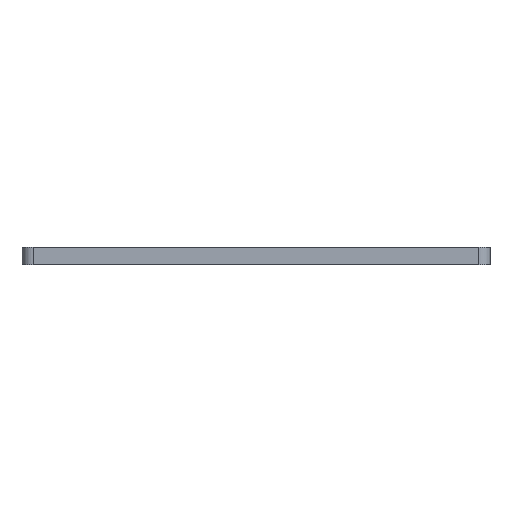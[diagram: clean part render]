
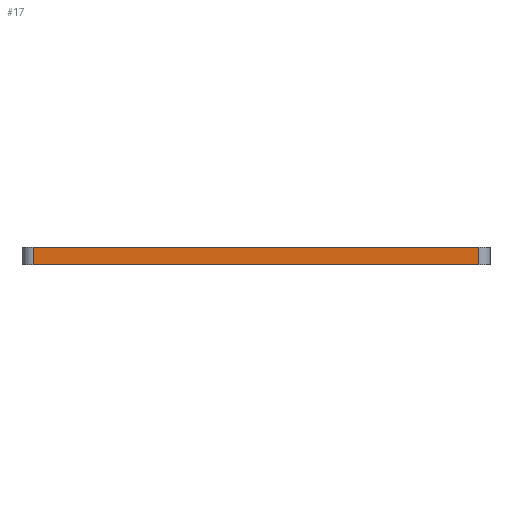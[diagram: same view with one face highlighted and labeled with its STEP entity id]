
A CAD part, left-side view. The second image highlights one B-rep face of the part: STEP entity #17.
In plain terms, the highlighted planar face has unit normal (-1, 0, 0).
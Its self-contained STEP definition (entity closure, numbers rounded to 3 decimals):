
#17 = ADVANCED_FACE('',(#18),#32,.T.);
#18 = FACE_BOUND('',#19,.T.);
#19 = EDGE_LOOP('',(#20,#55,#83,#111));
#20 = ORIENTED_EDGE('',*,*,#21,.T.);
#21 = EDGE_CURVE('',#22,#24,#26,.T.);
#22 = VERTEX_POINT('',#23);
#23 = CARTESIAN_POINT('',(-105.,-80.,0.));
#24 = VERTEX_POINT('',#25);
#25 = CARTESIAN_POINT('',(-105.,-80.,6.25));
#26 = SURFACE_CURVE('',#27,(#31,#43),.PCURVE_S1.);
#27 = LINE('',#28,#29);
#28 = CARTESIAN_POINT('',(-105.,-80.,0.));
#29 = VECTOR('',#30,1.);
#30 = DIRECTION('',(0.,0.,1.));
#31 = PCURVE('',#32,#37);
#32 = PLANE('',#33);
#33 = AXIS2_PLACEMENT_3D('',#34,#35,#36);
#34 = CARTESIAN_POINT('',(-105.,-80.,0.));
#35 = DIRECTION('',(-1.,0.,0.));
#36 = DIRECTION('',(0.,1.,0.));
#37 = DEFINITIONAL_REPRESENTATION('',(#38),#42);
#38 = LINE('',#39,#40);
#39 = CARTESIAN_POINT('',(0.,0.));
#40 = VECTOR('',#41,1.);
#41 = DIRECTION('',(0.,-1.));
#42 = ( GEOMETRIC_REPRESENTATION_CONTEXT(2) 
PARAMETRIC_REPRESENTATION_CONTEXT() REPRESENTATION_CONTEXT('2D SPACE',''
  ) );
#43 = PCURVE('',#44,#49);
#44 = CYLINDRICAL_SURFACE('',#45,4.);
#45 = AXIS2_PLACEMENT_3D('',#46,#47,#48);
#46 = CARTESIAN_POINT('',(-101.,-80.,0.));
#47 = DIRECTION('',(0.,0.,-1.));
#48 = DIRECTION('',(-1.,0.,0.));
#49 = DEFINITIONAL_REPRESENTATION('',(#50),#54);
#50 = LINE('',#51,#52);
#51 = CARTESIAN_POINT('',(6.283,0.));
#52 = VECTOR('',#53,1.);
#53 = DIRECTION('',(0.,-1.));
#54 = ( GEOMETRIC_REPRESENTATION_CONTEXT(2) 
PARAMETRIC_REPRESENTATION_CONTEXT() REPRESENTATION_CONTEXT('2D SPACE',''
  ) );
#55 = ORIENTED_EDGE('',*,*,#56,.T.);
#56 = EDGE_CURVE('',#24,#57,#59,.T.);
#57 = VERTEX_POINT('',#58);
#58 = CARTESIAN_POINT('',(-105.,80.,6.25));
#59 = SURFACE_CURVE('',#60,(#64,#71),.PCURVE_S1.);
#60 = LINE('',#61,#62);
#61 = CARTESIAN_POINT('',(-105.,0.,6.25));
#62 = VECTOR('',#63,1.);
#63 = DIRECTION('',(0.,1.,0.));
#64 = PCURVE('',#32,#65);
#65 = DEFINITIONAL_REPRESENTATION('',(#66),#70);
#66 = LINE('',#67,#68);
#67 = CARTESIAN_POINT('',(80.,-6.25));
#68 = VECTOR('',#69,1.);
#69 = DIRECTION('',(1.,0.));
#70 = ( GEOMETRIC_REPRESENTATION_CONTEXT(2) 
PARAMETRIC_REPRESENTATION_CONTEXT() REPRESENTATION_CONTEXT('2D SPACE',''
  ) );
#71 = PCURVE('',#72,#77);
#72 = PLANE('',#73);
#73 = AXIS2_PLACEMENT_3D('',#74,#75,#76);
#74 = CARTESIAN_POINT('',(0.,0.,6.25));
#75 = DIRECTION('',(0.,0.,1.));
#76 = DIRECTION('',(1.,0.,-0.));
#77 = DEFINITIONAL_REPRESENTATION('',(#78),#82);
#78 = LINE('',#79,#80);
#79 = CARTESIAN_POINT('',(-105.,0.));
#80 = VECTOR('',#81,1.);
#81 = DIRECTION('',(0.,1.));
#82 = ( GEOMETRIC_REPRESENTATION_CONTEXT(2) 
PARAMETRIC_REPRESENTATION_CONTEXT() REPRESENTATION_CONTEXT('2D SPACE',''
  ) );
#83 = ORIENTED_EDGE('',*,*,#84,.F.);
#84 = EDGE_CURVE('',#85,#57,#87,.T.);
#85 = VERTEX_POINT('',#86);
#86 = CARTESIAN_POINT('',(-105.,80.,0.));
#87 = SURFACE_CURVE('',#88,(#92,#99),.PCURVE_S1.);
#88 = LINE('',#89,#90);
#89 = CARTESIAN_POINT('',(-105.,80.,0.));
#90 = VECTOR('',#91,1.);
#91 = DIRECTION('',(0.,0.,1.));
#92 = PCURVE('',#32,#93);
#93 = DEFINITIONAL_REPRESENTATION('',(#94),#98);
#94 = LINE('',#95,#96);
#95 = CARTESIAN_POINT('',(160.,0.));
#96 = VECTOR('',#97,1.);
#97 = DIRECTION('',(0.,-1.));
#98 = ( GEOMETRIC_REPRESENTATION_CONTEXT(2) 
PARAMETRIC_REPRESENTATION_CONTEXT() REPRESENTATION_CONTEXT('2D SPACE',''
  ) );
#99 = PCURVE('',#100,#105);
#100 = CYLINDRICAL_SURFACE('',#101,4.);
#101 = AXIS2_PLACEMENT_3D('',#102,#103,#104);
#102 = CARTESIAN_POINT('',(-101.,80.,0.));
#103 = DIRECTION('',(0.,0.,-1.));
#104 = DIRECTION('',(-1.,0.,0.));
#105 = DEFINITIONAL_REPRESENTATION('',(#106),#110);
#106 = LINE('',#107,#108);
#107 = CARTESIAN_POINT('',(0.,0.));
#108 = VECTOR('',#109,1.);
#109 = DIRECTION('',(0.,-1.));
#110 = ( GEOMETRIC_REPRESENTATION_CONTEXT(2) 
PARAMETRIC_REPRESENTATION_CONTEXT() REPRESENTATION_CONTEXT('2D SPACE',''
  ) );
#111 = ORIENTED_EDGE('',*,*,#112,.F.);
#112 = EDGE_CURVE('',#22,#85,#113,.T.);
#113 = SURFACE_CURVE('',#114,(#118,#125),.PCURVE_S1.);
#114 = LINE('',#115,#116);
#115 = CARTESIAN_POINT('',(-105.,0.,0.));
#116 = VECTOR('',#117,1.);
#117 = DIRECTION('',(0.,1.,0.));
#118 = PCURVE('',#32,#119);
#119 = DEFINITIONAL_REPRESENTATION('',(#120),#124);
#120 = LINE('',#121,#122);
#121 = CARTESIAN_POINT('',(80.,0.));
#122 = VECTOR('',#123,1.);
#123 = DIRECTION('',(1.,0.));
#124 = ( GEOMETRIC_REPRESENTATION_CONTEXT(2) 
PARAMETRIC_REPRESENTATION_CONTEXT() REPRESENTATION_CONTEXT('2D SPACE',''
  ) );
#125 = PCURVE('',#126,#131);
#126 = PLANE('',#127);
#127 = AXIS2_PLACEMENT_3D('',#128,#129,#130);
#128 = CARTESIAN_POINT('',(0.,0.,0.));
#129 = DIRECTION('',(0.,0.,1.));
#130 = DIRECTION('',(1.,0.,-0.));
#131 = DEFINITIONAL_REPRESENTATION('',(#132),#136);
#132 = LINE('',#133,#134);
#133 = CARTESIAN_POINT('',(-105.,0.));
#134 = VECTOR('',#135,1.);
#135 = DIRECTION('',(0.,1.));
#136 = ( GEOMETRIC_REPRESENTATION_CONTEXT(2) 
PARAMETRIC_REPRESENTATION_CONTEXT() REPRESENTATION_CONTEXT('2D SPACE',''
  ) );
